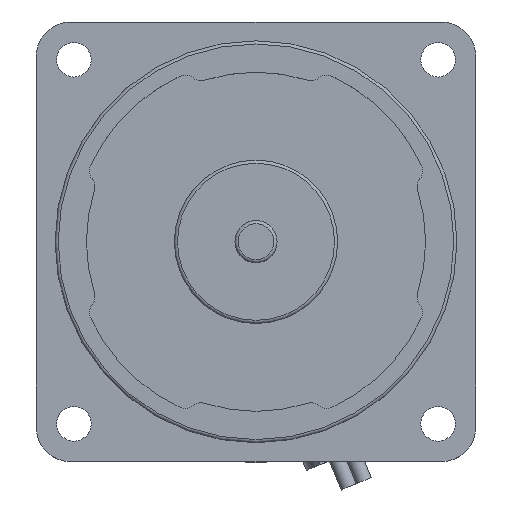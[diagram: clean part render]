
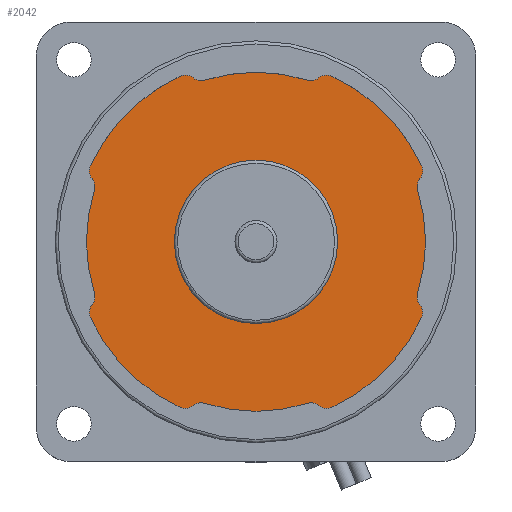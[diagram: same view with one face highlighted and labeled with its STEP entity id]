
A CAD part, top view. The second image highlights one B-rep face of the part: STEP entity #2042.
In plain terms, the highlighted planar face has unit normal (0, 0, 1).
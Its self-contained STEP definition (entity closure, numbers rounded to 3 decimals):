
#1010=CARTESIAN_POINT('',(26.096,-10.,124.));
#1011=VERTEX_POINT('',#1010);
#1027=CARTESIAN_POINT('',(25.744,-8.139,124.));
#1028=VERTEX_POINT('',#1027);
#1035=CARTESIAN_POINT('',(27.651,-8.742,124.));
#1036=DIRECTION('',(0.0,0.0,-1.0));
#1037=DIRECTION('',(-0.903,-0.43,0.0));
#1038=AXIS2_PLACEMENT_3D('',#1035,#1036,#1037);
#1039=CIRCLE('',#1038,2.0);
#1040=EDGE_CURVE('',#1028,#1011,#1039,.F.);
#1050=CARTESIAN_POINT('',(25.744,8.139,124.));
#1051=VERTEX_POINT('',#1050);
#1060=CARTESIAN_POINT('',(0.,0.,124.0));
#1061=DIRECTION('',(0.0,0.0,1.0));
#1062=DIRECTION('',(-0.93,0.367,0.0));
#1063=AXIS2_PLACEMENT_3D('',#1060,#1061,#1062);
#1064=CIRCLE('',#1063,27.);
#1065=EDGE_CURVE('',#1028,#1051,#1064,.T.);
#1083=CARTESIAN_POINT('',(26.096,10.,124.));
#1084=VERTEX_POINT('',#1083);
#1093=CARTESIAN_POINT('',(27.651,8.742,124.));
#1094=DIRECTION('',(0.0,0.0,-1.0));
#1095=DIRECTION('',(-0.903,0.43,0.0));
#1096=AXIS2_PLACEMENT_3D('',#1093,#1094,#1095);
#1097=CIRCLE('',#1096,2.0);
#1098=EDGE_CURVE('',#1084,#1051,#1097,.F.);
#1125=CARTESIAN_POINT('',(26.359,12.092,124.));
#1126=VERTEX_POINT('',#1125);
#1133=CARTESIAN_POINT('',(24.541,11.258,124.));
#1134=DIRECTION('',(0.0,0.0,1.0));
#1135=DIRECTION('',(-0.777,0.629,0.0));
#1136=AXIS2_PLACEMENT_3D('',#1133,#1134,#1135);
#1137=CIRCLE('',#1136,2.);
#1138=EDGE_CURVE('',#1084,#1126,#1137,.T.);
#1159=CARTESIAN_POINT('',(12.092,26.359,124.));
#1160=VERTEX_POINT('',#1159);
#1167=CARTESIAN_POINT('',(0.0,0.0,124.0));
#1168=DIRECTION('',(0.0,0.0,1.0));
#1169=DIRECTION('',(-0.93,-0.367,0.0));
#1170=AXIS2_PLACEMENT_3D('',#1167,#1168,#1169);
#1171=CIRCLE('',#1170,29.);
#1172=EDGE_CURVE('',#1126,#1160,#1171,.T.);
#1191=CARTESIAN_POINT('',(10.,26.096,124.));
#1192=VERTEX_POINT('',#1191);
#1199=CARTESIAN_POINT('',(11.258,24.541,124.));
#1200=DIRECTION('',(0.0,0.0,1.0));
#1201=DIRECTION('',(-0.417,-0.909,0.0));
#1202=AXIS2_PLACEMENT_3D('',#1199,#1200,#1201);
#1203=CIRCLE('',#1202,2.);
#1204=EDGE_CURVE('',#1160,#1192,#1203,.T.);
#1225=CARTESIAN_POINT('',(8.139,25.744,124.));
#1226=VERTEX_POINT('',#1225);
#1233=CARTESIAN_POINT('',(8.742,27.651,124.));
#1234=DIRECTION('',(0.0,0.0,-1.0));
#1235=DIRECTION('',(0.43,-0.903,0.0));
#1236=AXIS2_PLACEMENT_3D('',#1233,#1234,#1235);
#1237=CIRCLE('',#1236,2.0);
#1238=EDGE_CURVE('',#1226,#1192,#1237,.F.);
#1258=CARTESIAN_POINT('',(-8.139,25.744,124.));
#1259=VERTEX_POINT('',#1258);
#1266=CARTESIAN_POINT('',(0.,0.,124.0));
#1267=DIRECTION('',(0.0,0.0,1.0));
#1268=DIRECTION('',(-0.367,-0.93,0.0));
#1269=AXIS2_PLACEMENT_3D('',#1266,#1267,#1268);
#1270=CIRCLE('',#1269,27.);
#1271=EDGE_CURVE('',#1226,#1259,#1270,.T.);
#1281=CARTESIAN_POINT('',(-10.,26.096,124.));
#1282=VERTEX_POINT('',#1281);
#1291=CARTESIAN_POINT('',(-8.742,27.651,124.));
#1292=DIRECTION('',(0.0,0.0,-1.0));
#1293=DIRECTION('',(-0.43,-0.903,0.0));
#1294=AXIS2_PLACEMENT_3D('',#1291,#1292,#1293);
#1295=CIRCLE('',#1294,2.0);
#1296=EDGE_CURVE('',#1282,#1259,#1295,.F.);
#1323=CARTESIAN_POINT('',(-12.092,26.359,124.));
#1324=VERTEX_POINT('',#1323);
#1331=CARTESIAN_POINT('',(-11.258,24.541,124.));
#1332=DIRECTION('',(0.0,0.0,1.0));
#1333=DIRECTION('',(-0.629,-0.777,0.0));
#1334=AXIS2_PLACEMENT_3D('',#1331,#1332,#1333);
#1335=CIRCLE('',#1334,2.);
#1336=EDGE_CURVE('',#1282,#1324,#1335,.T.);
#1347=CARTESIAN_POINT('',(-26.359,12.092,124.));
#1348=VERTEX_POINT('',#1347);
#1357=CARTESIAN_POINT('',(0.0,0.0,124.0));
#1358=DIRECTION('',(0.0,0.0,1.0));
#1359=DIRECTION('',(0.367,-0.93,0.0));
#1360=AXIS2_PLACEMENT_3D('',#1357,#1358,#1359);
#1361=CIRCLE('',#1360,29.0);
#1362=EDGE_CURVE('',#1324,#1348,#1361,.T.);
#1389=CARTESIAN_POINT('',(-26.096,10.,124.));
#1390=VERTEX_POINT('',#1389);
#1397=CARTESIAN_POINT('',(-24.541,11.258,124.));
#1398=DIRECTION('',(0.0,0.0,1.0));
#1399=DIRECTION('',(0.909,-0.417,0.0));
#1400=AXIS2_PLACEMENT_3D('',#1397,#1398,#1399);
#1401=CIRCLE('',#1400,2.);
#1402=EDGE_CURVE('',#1348,#1390,#1401,.T.);
#1423=CARTESIAN_POINT('',(-25.744,8.139,124.));
#1424=VERTEX_POINT('',#1423);
#1431=CARTESIAN_POINT('',(-27.651,8.742,124.));
#1432=DIRECTION('',(0.0,0.0,-1.0));
#1433=DIRECTION('',(0.903,0.43,0.0));
#1434=AXIS2_PLACEMENT_3D('',#1431,#1432,#1433);
#1435=CIRCLE('',#1434,2.0);
#1436=EDGE_CURVE('',#1424,#1390,#1435,.F.);
#1446=CARTESIAN_POINT('',(-25.744,-8.139,124.));
#1447=VERTEX_POINT('',#1446);
#1456=CARTESIAN_POINT('',(0.,0.,124.0));
#1457=DIRECTION('',(0.0,0.0,1.0));
#1458=DIRECTION('',(0.93,-0.367,0.0));
#1459=AXIS2_PLACEMENT_3D('',#1456,#1457,#1458);
#1460=CIRCLE('',#1459,27.);
#1461=EDGE_CURVE('',#1424,#1447,#1460,.T.);
#1479=CARTESIAN_POINT('',(-26.096,-10.,124.));
#1480=VERTEX_POINT('',#1479);
#1489=CARTESIAN_POINT('',(-27.651,-8.742,124.));
#1490=DIRECTION('',(0.0,0.0,-1.0));
#1491=DIRECTION('',(0.903,-0.43,0.0));
#1492=AXIS2_PLACEMENT_3D('',#1489,#1490,#1491);
#1493=CIRCLE('',#1492,2.0);
#1494=EDGE_CURVE('',#1480,#1447,#1493,.F.);
#1521=CARTESIAN_POINT('',(-26.359,-12.092,124.));
#1522=VERTEX_POINT('',#1521);
#1529=CARTESIAN_POINT('',(-24.541,-11.258,124.));
#1530=DIRECTION('',(0.0,0.0,1.0));
#1531=DIRECTION('',(0.777,-0.629,0.0));
#1532=AXIS2_PLACEMENT_3D('',#1529,#1530,#1531);
#1533=CIRCLE('',#1532,2.);
#1534=EDGE_CURVE('',#1480,#1522,#1533,.T.);
#1545=CARTESIAN_POINT('',(-12.092,-26.359,124.));
#1546=VERTEX_POINT('',#1545);
#1555=CARTESIAN_POINT('',(0.0,0.0,124.0));
#1556=DIRECTION('',(0.0,0.0,1.0));
#1557=DIRECTION('',(0.93,0.367,0.0));
#1558=AXIS2_PLACEMENT_3D('',#1555,#1556,#1557);
#1559=CIRCLE('',#1558,29.);
#1560=EDGE_CURVE('',#1522,#1546,#1559,.T.);
#1587=CARTESIAN_POINT('',(-10.,-26.096,124.));
#1588=VERTEX_POINT('',#1587);
#1595=CARTESIAN_POINT('',(-11.258,-24.541,124.));
#1596=DIRECTION('',(0.0,0.0,1.0));
#1597=DIRECTION('',(0.417,0.909,0.0));
#1598=AXIS2_PLACEMENT_3D('',#1595,#1596,#1597);
#1599=CIRCLE('',#1598,2.);
#1600=EDGE_CURVE('',#1546,#1588,#1599,.T.);
#1621=CARTESIAN_POINT('',(-8.139,-25.744,124.));
#1622=VERTEX_POINT('',#1621);
#1629=CARTESIAN_POINT('',(-8.742,-27.651,124.));
#1630=DIRECTION('',(0.0,0.0,-1.0));
#1631=DIRECTION('',(-0.43,0.903,0.0));
#1632=AXIS2_PLACEMENT_3D('',#1629,#1630,#1631);
#1633=CIRCLE('',#1632,2.0);
#1634=EDGE_CURVE('',#1622,#1588,#1633,.F.);
#1644=CARTESIAN_POINT('',(8.139,-25.744,124.));
#1645=VERTEX_POINT('',#1644);
#1654=CARTESIAN_POINT('',(0.,0.,124.0));
#1655=DIRECTION('',(0.0,0.0,1.0));
#1656=DIRECTION('',(0.367,0.93,0.0));
#1657=AXIS2_PLACEMENT_3D('',#1654,#1655,#1656);
#1658=CIRCLE('',#1657,27.0);
#1659=EDGE_CURVE('',#1622,#1645,#1658,.T.);
#1677=CARTESIAN_POINT('',(10.,-26.096,124.));
#1678=VERTEX_POINT('',#1677);
#1687=CARTESIAN_POINT('',(8.742,-27.651,124.));
#1688=DIRECTION('',(0.0,0.0,-1.0));
#1689=DIRECTION('',(0.43,0.903,0.0));
#1690=AXIS2_PLACEMENT_3D('',#1687,#1688,#1689);
#1691=CIRCLE('',#1690,2.0);
#1692=EDGE_CURVE('',#1678,#1645,#1691,.F.);
#1719=CARTESIAN_POINT('',(12.092,-26.359,124.));
#1720=VERTEX_POINT('',#1719);
#1727=CARTESIAN_POINT('',(11.258,-24.541,124.));
#1728=DIRECTION('',(0.0,0.0,1.0));
#1729=DIRECTION('',(0.629,0.777,0.0));
#1730=AXIS2_PLACEMENT_3D('',#1727,#1728,#1729);
#1731=CIRCLE('',#1730,2.);
#1732=EDGE_CURVE('',#1678,#1720,#1731,.T.);
#1743=CARTESIAN_POINT('',(26.359,-12.092,124.));
#1744=VERTEX_POINT('',#1743);
#1753=CARTESIAN_POINT('',(0.0,0.0,124.0));
#1754=DIRECTION('',(0.0,0.0,1.0));
#1755=DIRECTION('',(-0.367,0.93,0.0));
#1756=AXIS2_PLACEMENT_3D('',#1753,#1754,#1755);
#1757=CIRCLE('',#1756,29.);
#1758=EDGE_CURVE('',#1720,#1744,#1757,.T.);
#1784=CARTESIAN_POINT('',(24.541,-11.258,124.));
#1785=DIRECTION('',(0.0,0.0,1.0));
#1786=DIRECTION('',(-0.909,0.417,0.0));
#1787=AXIS2_PLACEMENT_3D('',#1784,#1785,#1786);
#1788=CIRCLE('',#1787,2.);
#1789=EDGE_CURVE('',#1744,#1011,#1788,.T.);
#1911=CARTESIAN_POINT('',(13.0,0.,124.));
#1912=VERTEX_POINT('',#1911);
#1913=CARTESIAN_POINT('',(0.,0.,124.));
#1914=DIRECTION('',(0.0,0.0,-1.0));
#1915=DIRECTION('',(-1.0,0.0,0.0));
#1916=AXIS2_PLACEMENT_3D('',#1913,#1914,#1915);
#1917=CIRCLE('',#1916,13.0);
#1918=EDGE_CURVE('',#1912,#1912,#1917,.T.);
#2008=CARTESIAN_POINT('',(0.,0.,124.));
#2009=DIRECTION('',(0.0,0.0,1.0));
#2010=DIRECTION('',(1.0,0.0,0.0));
#2011=AXIS2_PLACEMENT_3D('',#2008,#2009,#2010);
#2012=PLANE('',#2011);
#2013=ORIENTED_EDGE('',*,*,#1789,.T.);
#2014=ORIENTED_EDGE('',*,*,#1040,.F.);
#2015=ORIENTED_EDGE('',*,*,#1065,.T.);
#2016=ORIENTED_EDGE('',*,*,#1098,.F.);
#2017=ORIENTED_EDGE('',*,*,#1138,.T.);
#2018=ORIENTED_EDGE('',*,*,#1172,.T.);
#2019=ORIENTED_EDGE('',*,*,#1204,.T.);
#2020=ORIENTED_EDGE('',*,*,#1238,.F.);
#2021=ORIENTED_EDGE('',*,*,#1271,.T.);
#2022=ORIENTED_EDGE('',*,*,#1296,.F.);
#2023=ORIENTED_EDGE('',*,*,#1336,.T.);
#2024=ORIENTED_EDGE('',*,*,#1362,.T.);
#2025=ORIENTED_EDGE('',*,*,#1402,.T.);
#2026=ORIENTED_EDGE('',*,*,#1436,.F.);
#2027=ORIENTED_EDGE('',*,*,#1461,.T.);
#2028=ORIENTED_EDGE('',*,*,#1494,.F.);
#2029=ORIENTED_EDGE('',*,*,#1534,.T.);
#2030=ORIENTED_EDGE('',*,*,#1560,.T.);
#2031=ORIENTED_EDGE('',*,*,#1600,.T.);
#2032=ORIENTED_EDGE('',*,*,#1634,.F.);
#2033=ORIENTED_EDGE('',*,*,#1659,.T.);
#2034=ORIENTED_EDGE('',*,*,#1692,.F.);
#2035=ORIENTED_EDGE('',*,*,#1732,.T.);
#2036=ORIENTED_EDGE('',*,*,#1758,.T.);
#2037=EDGE_LOOP('',(#2013,#2014,#2015,#2016,#2017,#2018,#2019,#2020,#2021,#2022,#2023,#2024,#2025,#2026,#2027,#2028,#2029,#2030,#2031,#2032,#2033,#2034,#2035,#2036));
#2038=FACE_OUTER_BOUND('',#2037,.T.);
#2039=ORIENTED_EDGE('',*,*,#1918,.T.);
#2040=EDGE_LOOP('',(#2039));
#2041=FACE_BOUND('',#2040,.T.);
#2042=ADVANCED_FACE('',(#2038,#2041),#2012,.T.);
